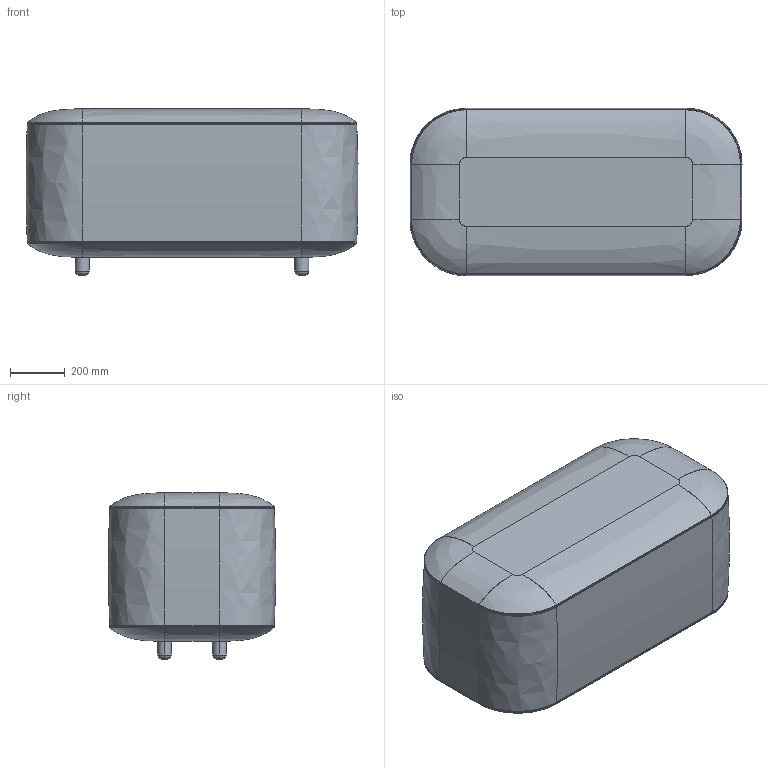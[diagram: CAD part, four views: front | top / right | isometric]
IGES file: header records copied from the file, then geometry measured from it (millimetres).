
Start section: SolidWorks IGES file using analytic representation for surfaces
Global section: file name: C:\Users\Usuario\Dropbox\Viccarbe\ARCHIVOS ENVIAR SILVIA\3D\Common\8- CO120H (120X60 alto )\IGES\CO120H.IGS; native system: SolidWorks 2013; preprocessor: SolidWorks 2013; author: Usuario; date: 130514.125029; units: millimetre
Bounding box: 1208.92 x 608.92 x 605 mm (x, y, z)
Surface area: 5659605.2 mm2 (no closed solid volume)
Topology: 0 solids, 0 shells, 118 faces, 1224 edges, 1224 vertices
Faces by surface type: bspline 82, revolution 36
